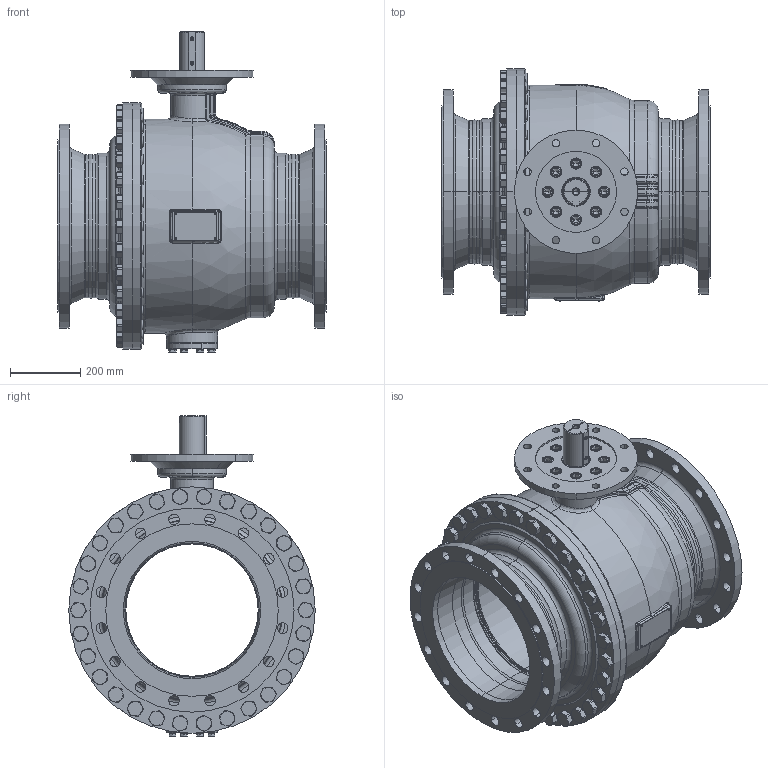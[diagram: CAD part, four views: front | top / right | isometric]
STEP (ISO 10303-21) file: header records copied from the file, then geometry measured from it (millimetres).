
FILE_DESCRIPTION((''),'2;1');
FILE_NAME('KHI-F_400_PN016-F30-P_SW0001','2026-02-05T16:29:46',('fischerkl'),('KLINGER'),'CREO PARAMETRIC BY PTC INC, 2023014','CREO PARAMETRIC BY PTC INC, 2023014','');
FILE_SCHEMA(('CONFIG_CONTROL_DESIGN'));
Products named in the file (1): KHI-F_400_PN016-F30-P_SW0001
Bounding box: 762 x 700 x 911.3 mm (x, y, z)
Volume: 53828789.1 mm3; surface area: 6833145.6 mm2
Topology: 1 solids, 4 shells, 3581 faces, 9022 edges, 5636 vertices
Faces by surface type: plane 1771, cylinder 861, cone 508, torus 311, bspline 99, sphere 31
Entity records: 153316 total; most frequent: CARTESIAN_POINT 68071, ORIENTED_EDGE 17992, DIRECTION 17656, EDGE_CURVE 8996, AXIS2_PLACEMENT_3D 6778, VERTEX_POINT 5636, VECTOR 4100, LINE 4100
